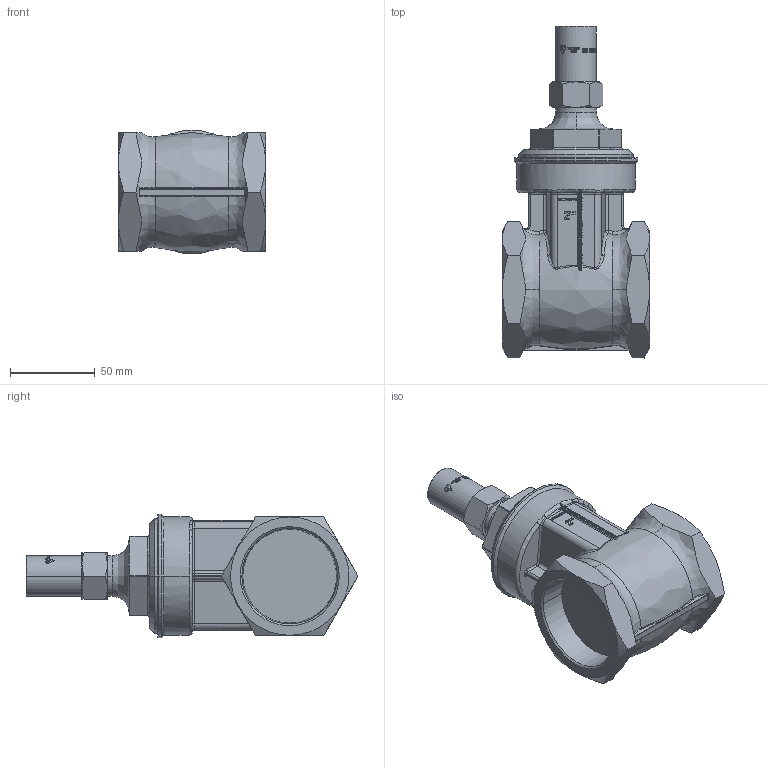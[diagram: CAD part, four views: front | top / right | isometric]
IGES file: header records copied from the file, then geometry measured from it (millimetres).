
Global section: file name: No Iges File Name specified; native system: AutoDesk Inventor R12.0; preprocessor: AutoDesk Inventor Iges Exporter R12.0; date: 20110311.084646; units: millimetre
Bounding box: 87 x 196.41 x 73.2 mm (x, y, z)
Volume: 456930.1 mm3; surface area: 59722.6 mm2
Topology: 1 solids, 1 shells, 996 faces, 2621 edges, 1699 vertices
Faces by surface type: plane 453, bspline 369, cylinder 71, cone 52, revolution 43, torus 8
